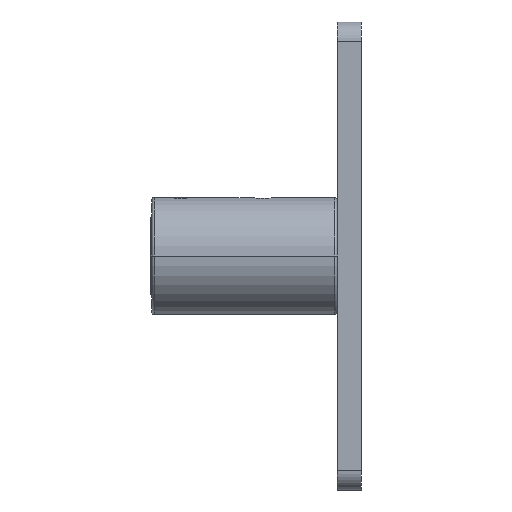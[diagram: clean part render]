
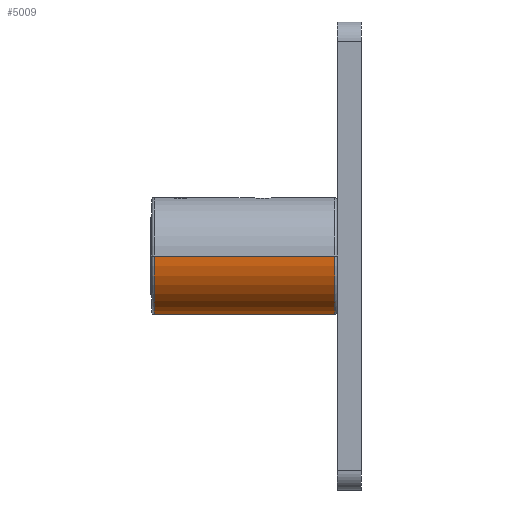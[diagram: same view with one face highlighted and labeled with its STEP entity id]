
A CAD part, left-side view. The second image highlights one B-rep face of the part: STEP entity #5009.
In plain terms, the highlighted cylindrical face has radius 19.05 mm (diameter 38.1 mm), a partial arc.
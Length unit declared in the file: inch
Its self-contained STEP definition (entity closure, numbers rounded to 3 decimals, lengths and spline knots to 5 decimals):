
#308 = LINE ( 'NONE', #2388, #361 ) ;
#310 = CIRCLE ( 'NONE', #740, 0.75 ) ;
#335 = VECTOR ( 'NONE', #2402, 39.37008 ) ;
#356 = LINE ( 'NONE', #2380, #335 ) ;
#361 = VECTOR ( 'NONE', #2412, 39.37008 ) ;
#372 = FACE_OUTER_BOUND ( 'NONE', #3578, .T. ) ;
#431 = CYLINDRICAL_SURFACE ( 'NONE', #922, 0.75 ) ;
#625 = CIRCLE ( 'NONE', #1030, 0.75 ) ;
#740 = AXIS2_PLACEMENT_3D ( 'NONE', #2495, #2475, #2498 ) ;
#922 = AXIS2_PLACEMENT_3D ( 'NONE', #4561, #4560, #4571 ) ;
#1030 = AXIS2_PLACEMENT_3D ( 'NONE', #1419, #1424, #1408 ) ;
#1408 = DIRECTION ( 'NONE',  ( 1., 0., 0. ) ) ;
#1419 = CARTESIAN_POINT ( 'NONE',  ( 0., 0., 2.345 ) ) ;
#1424 = DIRECTION ( 'NONE',  ( 0., 0., -1. ) ) ;
#2380 = CARTESIAN_POINT ( 'NONE',  ( 0.75, 0., 2.375 ) ) ;
#2388 = CARTESIAN_POINT ( 'NONE',  ( -0.75, 0., 2.375 ) ) ;
#2402 = DIRECTION ( 'NONE',  ( 0., 0., -1. ) ) ;
#2412 = DIRECTION ( 'NONE',  ( 0., 0., -1. ) ) ;
#2475 = DIRECTION ( 'NONE',  ( 0., 0., 1. ) ) ;
#2495 = CARTESIAN_POINT ( 'NONE',  ( 0., 0., 0.03 ) ) ;
#2498 = DIRECTION ( 'NONE',  ( 1., 0., 0. ) ) ;
#2849 = CARTESIAN_POINT ( 'NONE',  ( -0.75, 0., 2.345 ) ) ;
#2879 = CARTESIAN_POINT ( 'NONE',  ( -0.75, 0., 0.03 ) ) ;
#2886 = CARTESIAN_POINT ( 'NONE',  ( 0.75, 0., 2.345 ) ) ;
#2937 = CARTESIAN_POINT ( 'NONE',  ( 0.75, 0., 0.03 ) ) ;
#3578 = EDGE_LOOP ( 'NONE', ( #4059, #4148, #4143, #4104 ) ) ;
#4059 = ORIENTED_EDGE ( 'NONE', *, *, #5300, .F. ) ;
#4104 = ORIENTED_EDGE ( 'NONE', *, *, #5316, .T. ) ;
#4143 = ORIENTED_EDGE ( 'NONE', *, *, #5294, .T. ) ;
#4148 = ORIENTED_EDGE ( 'NONE', *, *, #5116, .T. ) ;
#4342 = VERTEX_POINT ( 'NONE', #2849 ) ;
#4380 = VERTEX_POINT ( 'NONE', #2879 ) ;
#4386 = VERTEX_POINT ( 'NONE', #2937 ) ;
#4417 = VERTEX_POINT ( 'NONE', #2886 ) ;
#4560 = DIRECTION ( 'NONE',  ( 0., 0., -1. ) ) ;
#4561 = CARTESIAN_POINT ( 'NONE',  ( 0., 0., 2.375 ) ) ;
#4571 = DIRECTION ( 'NONE',  ( -1., 0., 0. ) ) ;
#5009 = ADVANCED_FACE ( 'NONE', ( #372 ), #431, .T. ) ;
#5116 = EDGE_CURVE ( 'NONE', #4417, #4342, #625, .T. ) ;
#5294 = EDGE_CURVE ( 'NONE', #4342, #4380, #308, .T. ) ;
#5300 = EDGE_CURVE ( 'NONE', #4417, #4386, #356, .T. ) ;
#5316 = EDGE_CURVE ( 'NONE', #4380, #4386, #310, .T. ) ;
